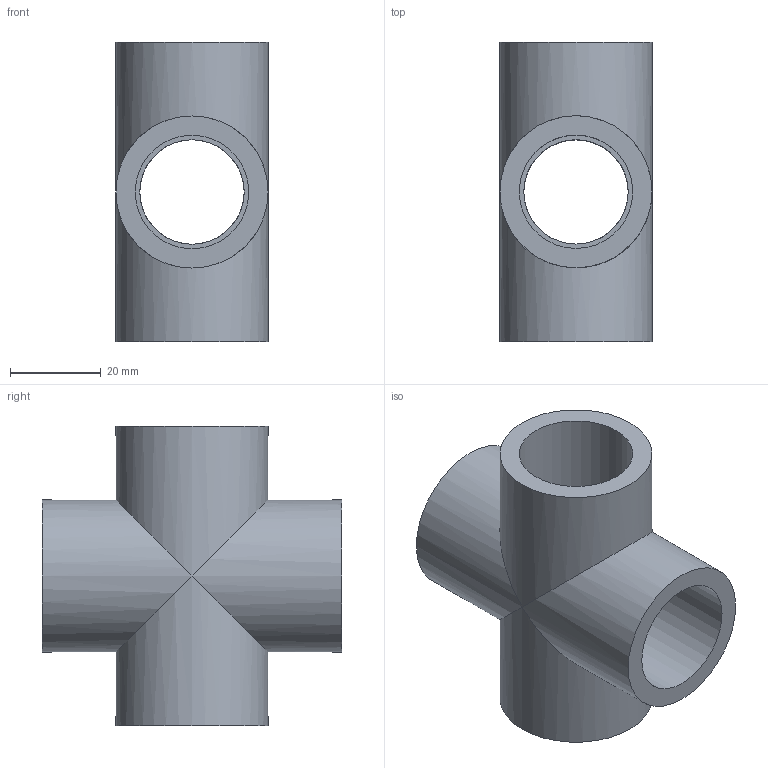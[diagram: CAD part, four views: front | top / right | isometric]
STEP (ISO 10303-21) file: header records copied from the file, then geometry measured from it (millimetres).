
FILE_DESCRIPTION(/* description */ ('Croci a 90° PVC'),/* implementation_level */ '2;1');
FILE_NAME(/* name */ 'C:\Users\POLYPIPE\Desktop\DATASET INVENTOR\LIBRERIA EFFAST\RACCORDI 3DxWEB\RDR\3D_RDRCRD\3D_RDRCRD0250.stp',/* time_stamp */ '2018-01-19T14:17:06+01:00',/* author */ ('POLYPIPE'),/* organization */ ('Polypipe Italia s.r.l.'),/* preprocessor_version */ 'ST-DEVELOPER v16.1',/* originating_system */ 'Autodesk Inventor 2016',/* authorisation */ '');
FILE_SCHEMA (('CONFIG_CONTROL_DESIGN'));
Length unit declared in the file: millimetre
Products named in the file (1): 3D_RDRCRD
Bounding box: 33.5 x 66 x 66 mm (x, y, z)
Volume: 38821.2 mm3; surface area: 19166.3 mm2
Topology: 1 solids, 1 shells, 20 faces, 36 edges, 20 vertices
Faces by surface type: cylinder 12, plane 8
Full cylindrical faces by diameter (mm): 23 x4, 25 x4, 33.5 x4
Entity records: 464 total; most frequent: DIRECTION 90, CARTESIAN_POINT 65, ORIENTED_EDGE 48, AXIS2_PLACEMENT_3D 45, EDGE_LOOP 40, EDGE_CURVE 24, FACE_BOUND 20, FACE_OUTER_BOUND 20
